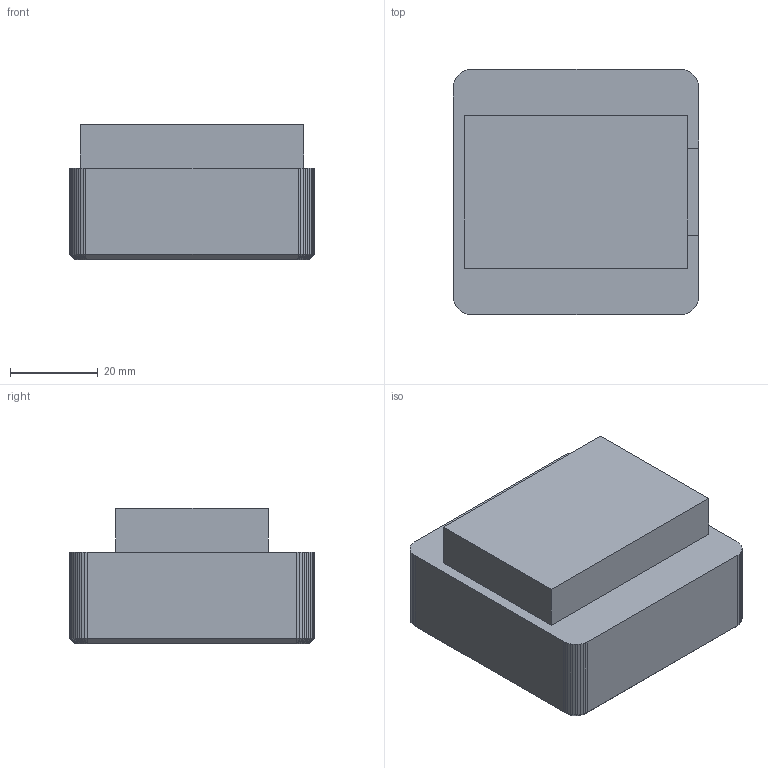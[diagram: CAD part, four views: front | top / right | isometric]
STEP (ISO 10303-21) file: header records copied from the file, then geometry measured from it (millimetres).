
FILE_DESCRIPTION(('Open CASCADE Model'),'2;1');
FILE_NAME('Open CASCADE Shape Model','2026-08-07T13:51:16',('Author'),( 'Open CASCADE'),'Open CASCADE STEP processor 7.9','Open CASCADE 7.9' ,'Unknown');
FILE_SCHEMA(('AUTOMOTIVE_DESIGN { 1 0 10303 214 1 1 1 1 }'));
Length unit declared in the file: millimetre
Products named in the file (1): 風扇座
Bounding box: 55.8 x 55.78 x 30.8 mm (x, y, z)
Volume: 29628.2 mm3; surface area: 18662 mm2
Topology: 1 solids, 1 shells, 307 faces, 788 edges, 484 vertices
Faces by surface type: plane 307
Entity records: 19224 total; most frequent: CARTESIAN_POINT 3156, DIRECTION 2980, LINE 2364, VECTOR 2364, ORIENTED_EDGE 1576, PCURVE 1576, DEFINITIONAL_REPRESENTATION 1576, EDGE_CURVE 788
